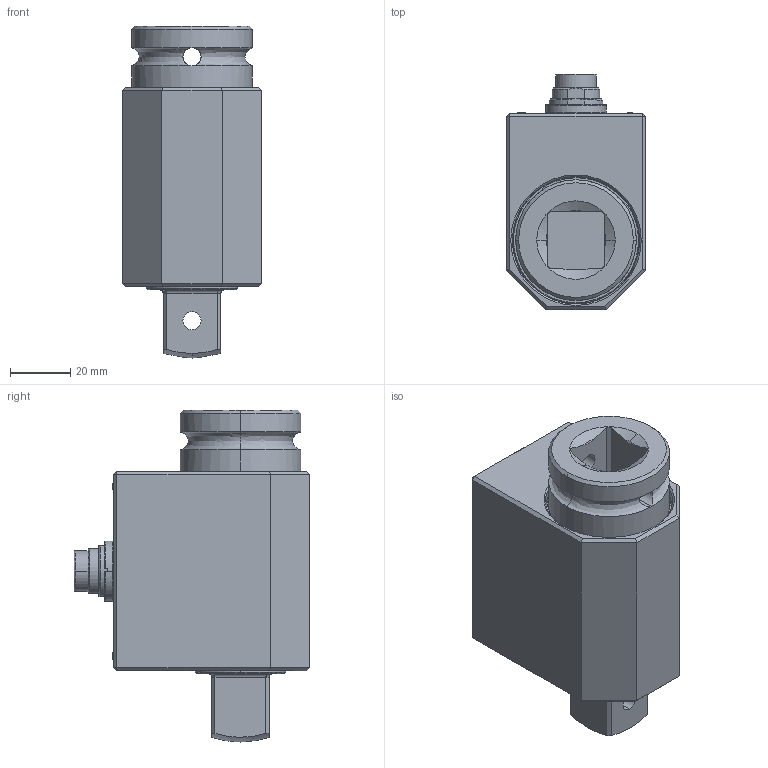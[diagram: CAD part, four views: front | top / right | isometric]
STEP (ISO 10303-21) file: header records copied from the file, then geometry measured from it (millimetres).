
FILE_DESCRIPTION (( 'STEP AP203' ), '1' );
FILE_NAME ('DRFN3-4a.STEP', '2008-11-05T07:53:56', ( 'ETH' ), ( '' ), 'SwSTEP 2.0', 'SolidWorks 2009', '' );
FILE_SCHEMA (( 'CONFIG_CONTROL_DESIGN' ));
Length unit declared in the file: millimetre
Products named in the file (1): DRFN3-4a
Bounding box: 46 x 78.1 x 110 mm (x, y, z)
Surface area: 33264.2 mm2 (no closed solid volume)
Topology: 0 solids, 7 shells, 288 faces, 752 edges, 461 vertices
Faces by surface type: plane 106, cylinder 75, bspline 55, cone 52
Entity records: 11247 total; most frequent: CARTESIAN_POINT 4494, DIRECTION 1392, ORIENTED_EDGE 1350, EDGE_CURVE 730, AXIS2_PLACEMENT_3D 551, VERTEX_POINT 461, EDGE_LOOP 327, CIRCLE 317
